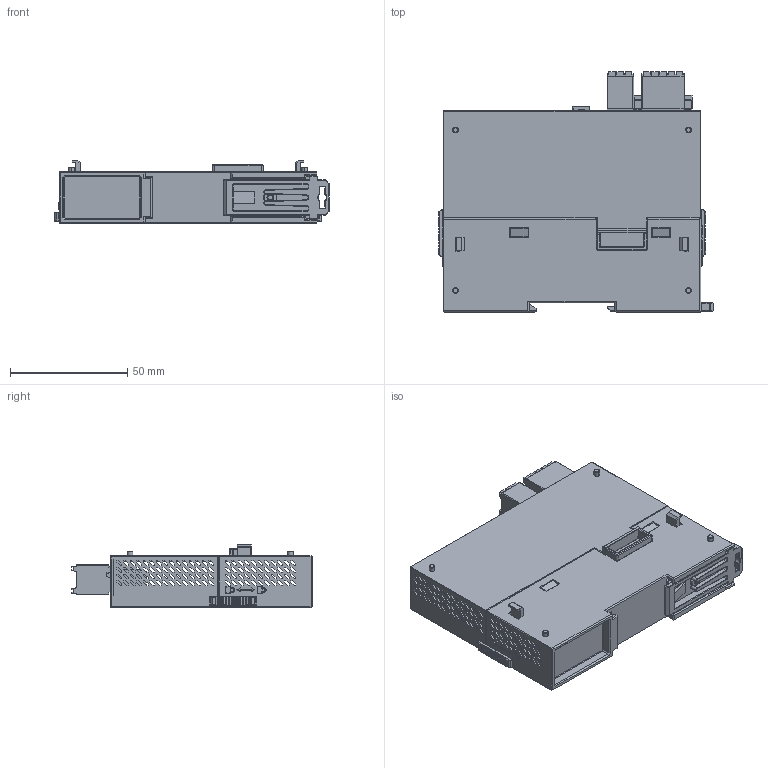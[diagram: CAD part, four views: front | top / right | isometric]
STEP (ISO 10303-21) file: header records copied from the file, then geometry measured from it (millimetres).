
FILE_DESCRIPTION((''),'2;1');
FILE_NAME('RE-T60M','2024-12-13T13:48:41',('ruiwe'),(''),'CREO PARAMETRIC BY PTC INC, 2021063','CREO PARAMETRIC BY PTC INC, 2021063','');
FILE_SCHEMA(('CONFIG_CONTROL_DESIGN','SHAPE_APPEARANCE_LAYERS_GROUPS'));
Products named in the file (1): RE-T60M
Bounding box: 117.2 x 102.6 x 26.7 mm (x, y, z)
Volume: 71518.3 mm3; surface area: 84109 mm2
Topology: 1 solids, 301 shells, 5258 faces, 17120 edges, 12259 vertices
Faces by surface type: plane 3732, cylinder 1040, torus 138, cone 126, sphere 115, bspline 107
Entity records: 247383 total; most frequent: CARTESIAN_POINT 55837, ORIENTED_EDGE 30032, DIRECTION 26457, EDGE_CURVE 17115, VECTOR 12901, LINE 12901, VERTEX_POINT 12259, PRESENTATION_STYLE_ASSIGNMENT 9602
